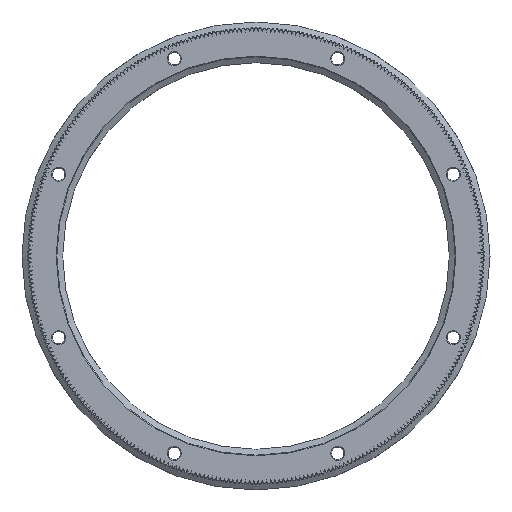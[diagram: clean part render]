
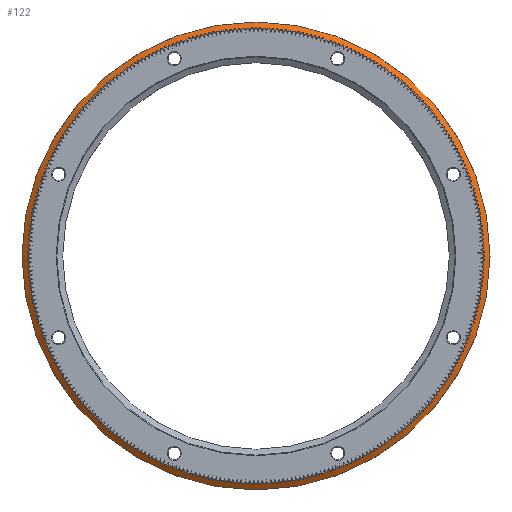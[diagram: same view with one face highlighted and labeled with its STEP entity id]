
A CAD part, front view. The second image highlights one B-rep face of the part: STEP entity #122.
In plain terms, the highlighted conical face has half-angle 55 degrees and reference radius 67.543 mm.
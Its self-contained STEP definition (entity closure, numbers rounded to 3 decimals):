
#122 = ADVANCED_FACE( '', ( #1619, #1620 ), #1621, .T. );
#1619 = FACE_OUTER_BOUND( '', #4469, .T. );
#1620 = FACE_BOUND( '', #4470, .T. );
#1621 = CONICAL_SURFACE( '', #4471, 67.543, 0.96 );
#4469 = EDGE_LOOP( '', ( #8445 ) );
#4470 = EDGE_LOOP( '', ( #8446 ) );
#4471 = AXIS2_PLACEMENT_3D( '', #8447, #8448, #8449 );
#8445 = ORIENTED_EDGE( '', *, *, #20609, .T. );
#8446 = ORIENTED_EDGE( '', *, *, #20610, .F. );
#8447 = CARTESIAN_POINT( '', ( 0., 4.7, 0. ) );
#8448 = DIRECTION( '', ( 0., 1., 0. ) );
#8449 = DIRECTION( '', ( 0., 0., 1. ) );
#20609 = EDGE_CURVE( '', #25770, #25770, #25771, .T. );
#20610 = EDGE_CURVE( '', #25772, #25772, #25773, .T. );
#25770 = VERTEX_POINT( '', #33312 );
#25771 = CIRCLE( '', #33313, 69.474 );
#25772 = VERTEX_POINT( '', #33314 );
#25773 = CIRCLE( '', #33315, 67.543 );
#33312 = CARTESIAN_POINT( '', ( 0., 6.053, -69.474 ) );
#33313 = AXIS2_PLACEMENT_3D( '', #43509, #43510, #43511 );
#33314 = CARTESIAN_POINT( '', ( 0., 4.7, -67.543 ) );
#33315 = AXIS2_PLACEMENT_3D( '', #43512, #43513, #43514 );
#43509 = CARTESIAN_POINT( '', ( 0., 6.053, 0. ) );
#43510 = DIRECTION( '', ( 0., -1., 0. ) );
#43511 = DIRECTION( '', ( 0., 0., -1. ) );
#43512 = CARTESIAN_POINT( '', ( 0., 4.7, 0. ) );
#43513 = DIRECTION( '', ( 0., -1., 0. ) );
#43514 = DIRECTION( '', ( 0., 0., -1. ) );
